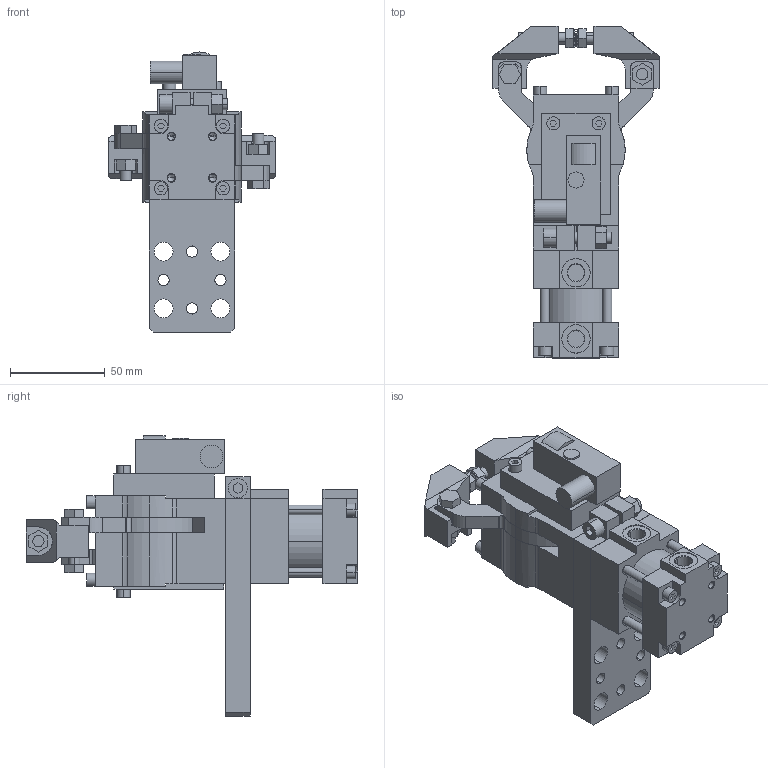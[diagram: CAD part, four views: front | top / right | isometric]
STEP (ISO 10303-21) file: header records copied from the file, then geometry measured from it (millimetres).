
FILE_DESCRIPTION (( 'STEP AP214' ), '1' );
FILE_NAME ('b32_b1sx_pla___a_a.STEP', '2018-05-08T12:56:08', ( 'vepadmin' ), ( 'Hewlett-Packard Company' ), 'SwSTEP 2.0', 'SolidWorks 2018', '' );
FILE_SCHEMA (( 'AUTOMOTIVE_DESIGN' ));
Length unit declared in the file: millimetre
Products named in the file (10): piedino_zigrinato_M6x25; gruppo_cilindro_b32; riparo_micro_b32; blocchetto_p&f_90; scatola_micro_b32; piastra_a_b32; tassello_b1_b32b; leva_b32b; gruppo_montante_b32b; b32_b1sx_pla___a_a
Assembly tree (12 placements, depth 2):
  b32_b1sx_pla___a_a
    gruppo_montante_b32b
    leva_b32b  x2
    tassello_b1_b32b  x2
    piastra_a_b32
    scatola_micro_b32
    blocchetto_p&f_90
    riparo_micro_b32
    gruppo_cilindro_b32
    piedino_zigrinato_M6x25  x2
Bounding box: 88 x 175.5 x 148.1 mm (x, y, z)
Volume: 375009.6 mm3; surface area: 106947.7 mm2
Topology: 12 solids, 12 shells, 837 faces, 2051 edges, 1338 vertices
Faces by surface type: plane 587, cylinder 228, cone 22
Entity records: 19461 total; most frequent: CARTESIAN_POINT 3359, DIRECTION 3153, ORIENTED_EDGE 3102, EDGE_CURVE 1551, VECTOR 1139, LINE 1139, VERTEX_POINT 1017, AXIS2_PLACEMENT_3D 1007
